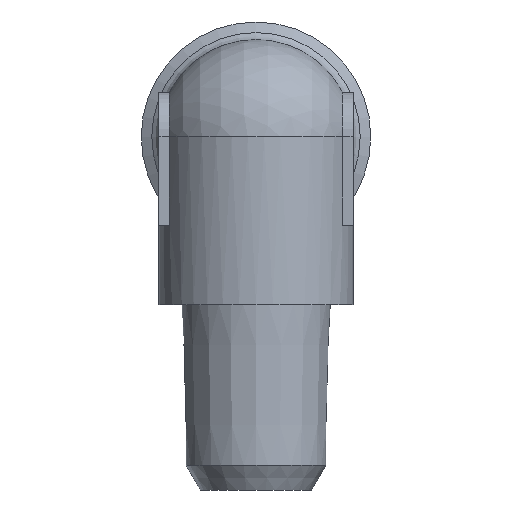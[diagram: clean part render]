
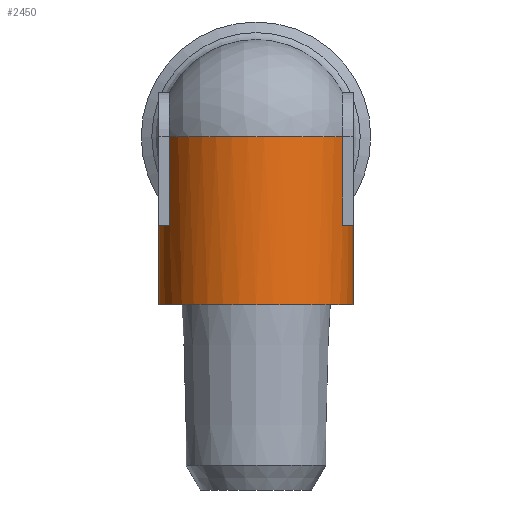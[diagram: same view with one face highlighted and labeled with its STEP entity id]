
A CAD part, left-side view. The second image highlights one B-rep face of the part: STEP entity #2450.
In plain terms, the highlighted cylindrical face has radius 5.5 mm (diameter 11 mm), a full revolution.
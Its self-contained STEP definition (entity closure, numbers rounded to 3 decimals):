
#1008=VECTOR('',#1854,1.);
#1009=VECTOR('',#1859,1.);
#1010=VECTOR('',#1864,1.);
#1011=VECTOR('',#1867,1.);
#1046=LINE('',#2168,#1008);
#1047=LINE('',#2173,#1009);
#1048=LINE('',#2178,#1010);
#1049=LINE('',#2181,#1011);
#1077=ELLIPSE('',#2324,7.778,5.5);
#1087=CYLINDRICAL_SURFACE('',#2339,5.5);
#1193=ORIENTED_EDGE('',*,*,#1475,.T.);
#1194=ORIENTED_EDGE('',*,*,#1452,.F.);
#1195=ORIENTED_EDGE('',*,*,#1476,.F.);
#1196=ORIENTED_EDGE('',*,*,#1477,.F.);
#1197=ORIENTED_EDGE('',*,*,#1478,.F.);
#1198=ORIENTED_EDGE('',*,*,#1479,.F.);
#1199=ORIENTED_EDGE('',*,*,#1458,.F.);
#1200=ORIENTED_EDGE('',*,*,#1474,.F.);
#1201=ORIENTED_EDGE('',*,*,#1473,.F.);
#1202=ORIENTED_EDGE('',*,*,#1480,.F.);
#1203=ORIENTED_EDGE('',*,*,#1481,.F.);
#1323=CIRCLE('',#2329,5.5);
#1326=CIRCLE('',#2337,5.5);
#1327=CIRCLE('',#2340,5.5);
#1328=CIRCLE('',#2341,5.5);
#1329=CIRCLE('',#2342,5.5);
#1330=CIRCLE('',#2343,5.5);
#1377=VERTEX_POINT('',#2122);
#1378=VERTEX_POINT('',#2124);
#1382=VERTEX_POINT('',#2134);
#1383=VERTEX_POINT('',#2136);
#1387=VERTEX_POINT('',#2152);
#1392=VERTEX_POINT('',#2164);
#1393=VERTEX_POINT('',#2170);
#1394=VERTEX_POINT('',#2172);
#1395=VERTEX_POINT('',#2174);
#1396=VERTEX_POINT('',#2176);
#1397=VERTEX_POINT('',#2179);
#1452=EDGE_CURVE('',#1377,#1378,#1077,.T.);
#1458=EDGE_CURVE('',#1382,#1383,#1323,.T.);
#1473=EDGE_CURVE('',#1387,#1392,#1326,.T.);
#1474=EDGE_CURVE('',#1392,#1382,#1046,.T.);
#1475=EDGE_CURVE('',#1393,#1393,#1327,.T.);
#1476=EDGE_CURVE('',#1394,#1377,#1047,.T.);
#1477=EDGE_CURVE('',#1395,#1394,#1328,.T.);
#1478=EDGE_CURVE('',#1396,#1395,#1329,.T.);
#1479=EDGE_CURVE('',#1383,#1396,#1048,.T.);
#1480=EDGE_CURVE('',#1397,#1387,#1330,.T.);
#1481=EDGE_CURVE('',#1378,#1397,#1049,.T.);
#1564=EDGE_LOOP('',(#1193));
#1565=EDGE_LOOP('',(#1194,#1195,#1196,#1197,#1198,#1199,#1200,#1201,#1202,
#1203));
#1662=FACE_BOUND('',#1564,.T.);
#1663=FACE_BOUND('',#1565,.T.);
#1810=DIRECTION('',(0.707,0.707,0.));
#1811=DIRECTION('',(0.707,-0.707,0.));
#1822=DIRECTION('',(0.,1.,0.));
#1823=DIRECTION('',(0.,0.,-5.5));
#1850=DIRECTION('',(0.,1.,0.));
#1851=DIRECTION('',(0.,0.,-5.5));
#1854=DIRECTION('',(0.,5.,0.));
#1855=DIRECTION('',(0.,1.,0.));
#1856=DIRECTION('',(1.,0.,0.));
#1857=DIRECTION('',(0.,1.,0.));
#1858=DIRECTION('',(5.5,0.,0.));
#1859=DIRECTION('',(0.,2.5,0.));
#1860=DIRECTION('',(0.,1.,0.));
#1861=DIRECTION('',(0.,0.,-5.5));
#1862=DIRECTION('',(0.,1.,0.));
#1863=DIRECTION('',(0.,0.,-5.5));
#1864=DIRECTION('',(0.,-5.,0.));
#1865=DIRECTION('',(0.,1.,0.));
#1866=DIRECTION('',(0.,0.,-5.5));
#1867=DIRECTION('',(0.,-2.5,0.));
#2122=CARTESIAN_POINT('',(2.5,-2.5,4.899));
#2124=CARTESIAN_POINT('',(2.5,-2.5,-4.899));
#2125=CARTESIAN_POINT('',(0.,0.,0.));
#2134=CARTESIAN_POINT('',(-2.5,0.,-4.899));
#2136=CARTESIAN_POINT('',(-2.5,0.,4.899));
#2137=CARTESIAN_POINT('',(0.,0.,0.));
#2152=CARTESIAN_POINT('',(0.,-5.,-5.5));
#2164=CARTESIAN_POINT('',(-2.5,-5.,-4.899));
#2166=CARTESIAN_POINT('',(0.,-5.,0.));
#2168=CARTESIAN_POINT('',(-2.5,-5.,-4.899));
#2169=CARTESIAN_POINT('',(0.,-9.5,0.));
#2170=CARTESIAN_POINT('',(5.5,-9.5,0.));
#2171=CARTESIAN_POINT('',(0.,-9.5,0.));
#2172=CARTESIAN_POINT('',(2.5,-5.,4.899));
#2173=CARTESIAN_POINT('',(2.5,-5.,4.899));
#2174=CARTESIAN_POINT('',(0.,-5.,5.5));
#2175=CARTESIAN_POINT('',(0.,-5.,0.));
#2176=CARTESIAN_POINT('',(-2.5,-5.,4.899));
#2177=CARTESIAN_POINT('',(0.,-5.,0.));
#2178=CARTESIAN_POINT('',(-2.5,0.,4.899));
#2179=CARTESIAN_POINT('',(2.5,-5.,-4.899));
#2180=CARTESIAN_POINT('',(0.,-5.,0.));
#2181=CARTESIAN_POINT('',(2.5,-2.5,-4.899));
#2324=AXIS2_PLACEMENT_3D('',#2125,#1810,#1811);
#2329=AXIS2_PLACEMENT_3D('',#2137,#1822,#1823);
#2337=AXIS2_PLACEMENT_3D('',#2166,#1850,#1851);
#2339=AXIS2_PLACEMENT_3D('',#2169,#1855,#1856);
#2340=AXIS2_PLACEMENT_3D('',#2171,#1857,#1858);
#2341=AXIS2_PLACEMENT_3D('',#2175,#1860,#1861);
#2342=AXIS2_PLACEMENT_3D('',#2177,#1862,#1863);
#2343=AXIS2_PLACEMENT_3D('',#2180,#1865,#1866);
#2450=ADVANCED_FACE('',(#1662,#1663),#1087,.T.);
